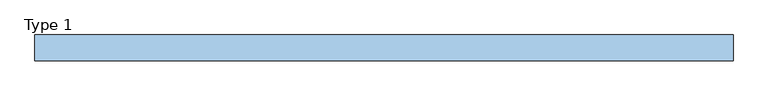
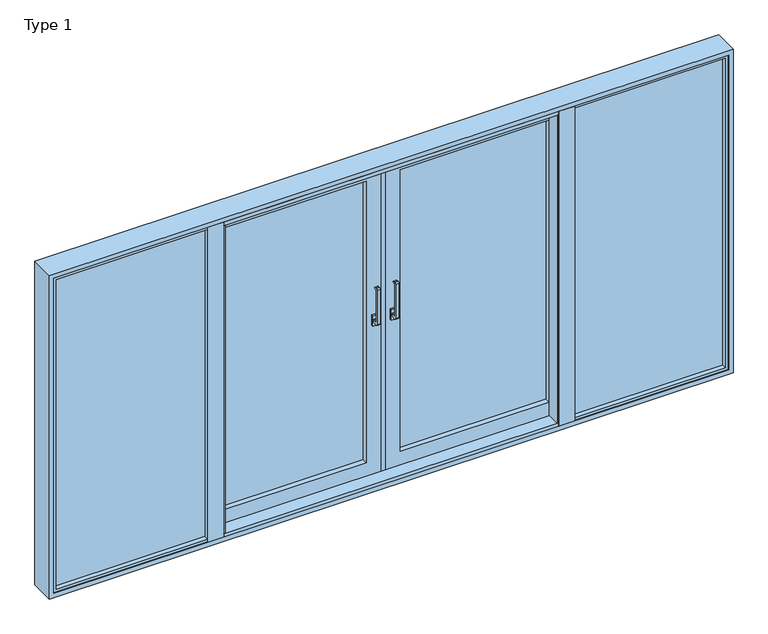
"""IFC4 building model written with IfcOpenShell, lengths in millimetres: window geometry, ETEM_ES70_Quadruple_Lift_Sliding_HT : Type 1."""

from ifc_helpers import new_model, si_unit, point, frame, frame_2d, origin, place, context, project, spatial, polyline, circle_curve, trimmed, segment, composite_curve, outline, extrude, faceted_brep, source, transform, mapped, element, save


def type_1_bc6504ef(model_context):
    return source(origin(), model_context, "Body", "SolidModel", [
        extrude(outline(composite_curve([segment(polyline([(20.5992454, 1090.0), (-10.9744394, 1090.0)]), True, "CONTINUOUS"), segment(trimmed(circle_curve(frame_2d((-10.9744394, 1098.4263152)), 8.4263152), [point((-10.9744394, 1090.0))], [point((-19.4007546, 1098.4263152))], False, "CARTESIAN"), True, "CONTINUOUS"), segment(polyline([(-19.4007546, 1098.4263152), (-19.4007546, 1331.5736848)]), True, "CONTINUOUS"), segment(trimmed(circle_curve(frame_2d((-10.9744394, 1331.5736848)), 8.4263152), [point((-19.4007546, 1331.5736848))], [point((-10.9744394, 1340.0))], False, "CARTESIAN"), True, "CONTINUOUS"), segment(polyline([(-10.9744394, 1340.0), (0.5992454, 1340.0)]), True, "CONTINUOUS"), segment(trimmed(circle_curve(frame_2d((0.5992454, 1335.0)), 5.0), [point((0.5992454, 1340.0))], [point((0.5992454, 1330.0))], False, "CARTESIAN"), True, "CONTINUOUS"), segment(polyline([(0.5992454, 1330.0), (-5.8652207, 1330.0)]), True, "CONTINUOUS"), segment(trimmed(circle_curve(frame_2d((-5.8652207, 1326.4644661)), 3.5355339), [point((-5.8652207, 1330.0))], [point((-9.4007546, 1326.4644661))], True, "CARTESIAN"), True, "CONTINUOUS"), segment(polyline([(-9.4007546, 1326.4644661), (-9.4007546, 1113.5355339)]), True, "CONTINUOUS"), segment(trimmed(circle_curve(frame_2d((-5.8652207, 1113.5355339)), 3.5355339), [point((-9.4007546, 1113.5355339))], [point((-5.8652207, 1110.0))], True, "CARTESIAN"), True, "CONTINUOUS"), segment(polyline([(-5.8652207, 1110.0), (20.5992454, 1110.0), (20.5992454, 1090.0)]), True, "CONTINUOUS")], self_intersect=False)), frame((-69.4936823, 0.0, 0.0), z_axis=(1.0, 0.0, 0.0), x_axis=(0.0, 1.0, 0.0)), (0.0, 0.0, 1.0), 20.0),
        extrude(outline(polyline([(-74.4936823, 20.5992454), (-74.4936823, 33.5992454), (-44.4936823, 33.5992454), (-44.4936823, 20.5992454), (-74.4936823, 20.5992454)])), frame((0.0, 0.0, 1065.0), z_axis=(0.0, 0.0, 1.0), x_axis=(1.0, 0.0, 0.0)), (0.0, 0.0, 1.0), 70.0),
        extrude(outline(composite_curve([segment(polyline([(20.5992454, 1090.0), (-10.9744394, 1090.0)]), True, "CONTINUOUS"), segment(trimmed(circle_curve(frame_2d((-10.9744394, 1098.4263152)), 8.4263152), [point((-10.9744394, 1090.0))], [point((-19.4007546, 1098.4263152))], False, "CARTESIAN"), True, "CONTINUOUS"), segment(polyline([(-19.4007546, 1098.4263152), (-19.4007546, 1331.5736848)]), True, "CONTINUOUS"), segment(trimmed(circle_curve(frame_2d((-10.9744394, 1331.5736848)), 8.4263152), [point((-19.4007546, 1331.5736848))], [point((-10.9744394, 1340.0))], False, "CARTESIAN"), True, "CONTINUOUS"), segment(polyline([(-10.9744394, 1340.0), (0.5992454, 1340.0)]), True, "CONTINUOUS"), segment(trimmed(circle_curve(frame_2d((0.5992454, 1335.0)), 5.0), [point((0.5992454, 1340.0))], [point((0.5992454, 1330.0))], False, "CARTESIAN"), True, "CONTINUOUS"), segment(polyline([(0.5992454, 1330.0), (-5.8652207, 1330.0)]), True, "CONTINUOUS"), segment(trimmed(circle_curve(frame_2d((-5.8652207, 1326.4644661)), 3.5355339), [point((-5.8652207, 1330.0))], [point((-9.4007546, 1326.4644661))], True, "CARTESIAN"), True, "CONTINUOUS"), segment(polyline([(-9.4007546, 1326.4644661), (-9.4007546, 1113.5355339)]), True, "CONTINUOUS"), segment(trimmed(circle_curve(frame_2d((-5.8652207, 1113.5355339)), 3.5355339), [point((-9.4007546, 1113.5355339))], [point((-5.8652207, 1110.0))], True, "CARTESIAN"), True, "CONTINUOUS"), segment(polyline([(-5.8652207, 1110.0), (20.5992454, 1110.0), (20.5992454, 1090.0)]), True, "CONTINUOUS")], self_intersect=False)), frame((49.4931787, 0.0, 0.0), z_axis=(1.0, 0.0, 0.0), x_axis=(0.0, 1.0, 0.0)), (0.0, 0.0, 1.0), 20.0),
        extrude(outline(polyline([(74.4931787, 20.5992454), (44.4931787, 20.5992454), (44.4931787, 33.5992454), (74.4931787, 33.5992454), (74.4931787, 20.5992454)])), frame((0.0, 0.0, 1065.0), z_axis=(0.0, 0.0, 1.0), x_axis=(1.0, 0.0, 0.0)), (0.0, 0.0, 1.0), 70.0),
        faceted_brep([(2200.0, -56.4, 2200.0), (2200.0, -56.4, 0.0), (2200.0, 105.0, 0.0), (2200.0, 105.0, 2200.0), (-2200.0, -56.4, 2200.0), (-2200.0, -56.4, 0.0), (2171.3, -56.4, 28.7), (-2171.3, -56.4, 28.7), (-2171.3, -56.4, 2171.3), (2171.3, -56.4, 2171.3), (-2200.0, 105.0, 0.0), (-2200.0, 105.0, 2200.0), (2183.5, 105.0, 2183.5), (-2183.5, 105.0, 2183.5), (-2183.5, 105.0, 16.5), (2183.5, 105.0, 16.5), (2183.5, 73.1, 2183.5), (2183.5, 73.1, 16.5), (-2183.5, 73.1, 16.5), (-2183.5, 73.1, 2183.5), (2160.0, 73.1, 2160.0), (-2160.0, 73.1, 2160.0), (-2160.0, 73.1, 40.0), (2160.0, 73.1, 40.0), (2160.0, 87.1, 2160.0), (2160.0, 87.1, 40.0), (-2160.0, 87.1, 40.0), (-2160.0, 87.1, 2160.0), (2151.8, 87.1, 2151.8), (-2151.8, 87.1, 2151.8), (-2151.8, 87.1, 48.2), (2151.8, 87.1, 48.2), (2151.8, 64.1, 2151.8), (2151.8, 64.1, 48.2), (-2151.8, 64.1, 48.2), (2183.5, 64.1, 2183.5), (-2183.5, 64.1, 2183.5), (-2183.5, 64.1, 16.5), (2183.5, 64.1, 16.5), (-2151.8, 64.1, 2151.8), (2183.5, 13.6, 2183.5), (2183.5, 13.6, 16.5), (-2183.5, 13.6, 16.5), (-2183.5, 13.6, 2183.5), (2152.0, 13.6, 2152.0), (-2152.0, 13.6, 2152.0), (-2152.0, 13.6, 48.0), (2152.0, 13.6, 48.0), (2171.3, -51.4, 2171.3), (2171.3, -51.4, 28.7), (-2171.3, -51.4, 2171.3), (-2171.3, -51.4, 28.7), (2152.0, -51.4, 48.0), (-2152.0, -51.4, 48.0), (-2152.0, -51.4, 2152.0), (2152.0, -51.4, 2152.0)], [[[0, 1, 2, 3]], [[0, 4, 5, 1], [6, 7, 8, 9]], [[2, 1, 5, 10]], [[2, 10, 11, 3], [12, 13, 14, 15]], [[16, 12, 15, 17]], [[17, 15, 14, 18]], [[17, 18, 19, 16], [20, 21, 22, 23]], [[24, 20, 23, 25]], [[25, 23, 22, 26]], [[25, 26, 27, 24], [28, 29, 30, 31]], [[32, 28, 31, 33]], [[33, 31, 30, 34]], [[35, 36, 37, 38], [33, 34, 39, 32]], [[40, 35, 38, 41]], [[41, 38, 37, 42]], [[41, 42, 43, 40], [44, 45, 46, 47]], [[9, 48, 49, 6]], [[48, 50, 51, 49], [52, 53, 54, 55]], [[6, 49, 51, 7]], [[10, 5, 4, 11]], [[18, 14, 13, 19]], [[26, 22, 21, 27]], [[34, 30, 29, 39]], [[42, 37, 36, 43]], [[7, 51, 50, 8]], [[53, 46, 45, 54]], [[52, 47, 46, 53]], [[55, 44, 47, 52]], [[11, 4, 0, 3]], [[19, 13, 12, 16]], [[27, 21, 20, 24]], [[39, 29, 28, 32]], [[43, 36, 35, 40]], [[8, 50, 48, 9]], [[54, 45, 44, 55]]]),
        faceted_brep([(1170.05, 45.9992454, 2160.9811707), (1170.05, 33.5992454, 2160.9811707), (1170.05, 33.5992454, 38.8188293), (1170.05, 45.9992454, 38.8188293), (7.0252518, 33.5992454, 2160.9811707), (7.0252518, 33.5992454, 38.8188293), (1067.05, 33.5992454, 141.8188293), (110.0252518, 33.5992454, 141.8188293), (110.0252518, 33.5992454, 2057.9811707), (1067.05, 33.5992454, 2057.9811707), (7.0252518, 45.9992454, 38.8188293), (7.0252518, 45.9992454, 2160.9811707), (1138.95, 45.9992454, 2129.8811707), (38.1252518, 45.9992454, 2129.8811707), (38.1252518, 45.9992454, 69.9188293), (1138.95, 45.9992454, 69.9188293), (1138.95, 91.1992454, 2129.8811707), (1138.95, 91.1992454, 69.9188293), (38.1252518, 91.1992454, 69.9188293), (1170.05, 91.1992454, 2160.9811707), (7.0252518, 91.1992454, 2160.9811707), (7.0252518, 91.1992454, 38.8188293), (1170.05, 91.1992454, 38.8188293), (38.1252518, 91.1992454, 2129.8811707), (1170.05, 103.5992454, 2160.9811707), (1170.05, 103.5992454, 38.8188293), (7.0252518, 103.5992454, 38.8188293), (7.0252518, 103.5992454, 2160.9811707), (1067.05, 103.5992454, 2057.9811707), (110.0252518, 103.5992454, 2057.9811707), (110.0252518, 103.5992454, 141.8188293), (1067.05, 103.5992454, 141.8188293)], [[[0, 1, 2, 3]], [[1, 4, 5, 2], [6, 7, 8, 9]], [[3, 2, 5, 10]], [[3, 10, 11, 0], [12, 13, 14, 15]], [[16, 12, 15, 17]], [[17, 15, 14, 18]], [[19, 20, 21, 22], [17, 18, 23, 16]], [[24, 19, 22, 25]], [[25, 22, 21, 26]], [[25, 26, 27, 24], [28, 29, 30, 31]], [[9, 28, 31, 6]], [[6, 31, 30, 7]], [[10, 5, 4, 11]], [[18, 14, 13, 23]], [[26, 21, 20, 27]], [[7, 30, 29, 8]], [[11, 4, 1, 0]], [[23, 13, 12, 16]], [[27, 20, 19, 24]], [[8, 29, 28, 9]]]),
        extrude(outline(polyline([(1179.95, 21.7992454), (1170.05, 21.7992454), (1170.05, 103.5992454), (1179.95, 103.5992454), (1179.95, 21.7992454)])), frame((0.0, 0.0, 38.8188293), z_axis=(0.0, 0.0, 1.0), x_axis=(1.0, 0.0, 0.0)), (0.0, 0.0, 1.0), 2122.1623414),
        extrude(outline(polyline([(1067.05, 29.6), (1076.95, 29.6), (1076.95, -56.4), (1067.05, -56.4), (1067.05, 29.6)])), frame((0.0, 0.0, 52.0), z_axis=(0.0, 0.0, 1.0), x_axis=(1.0, 0.0, 0.0)), (0.0, 0.0, 1.0), 2096.0),
        extrude(outline(polyline([(109.9252518, 95.6015137), (1067.05, 95.6015137), (1067.05, 89.6015137), (109.9252518, 89.6015137), (109.9252518, 95.6015137)])), frame((0.0, 0.0, 141.8188293), z_axis=(0.0, 0.0, 1.0), x_axis=(1.0, 0.0, 0.0)), (0.0, 0.0, 1.0), 1916.1623414),
        extrude(outline(polyline([(1179.95, 5.6000045), (2152.0, 5.6000045), (2152.0, -0.3999955), (1179.95, -0.3999955), (1179.95, 5.6000045)])), frame((0.0, 0.0, 48.0), z_axis=(0.0, 0.0, 1.0), x_axis=(1.0, 0.0, 0.0)), (0.0, 0.0, 1.0), 2104.0),
        extrude(outline(polyline([(1076.95, -56.4), (1076.95, 13.6), (1179.95, 13.6), (1179.95, -56.4), (1076.95, -56.4)])), frame((0.0, 0.0, 28.7), z_axis=(0.0, 0.0, 1.0), x_axis=(1.0, 0.0, 0.0)), (0.0, 0.0, 1.0), 2142.6),
        extrude(outline(polyline([(109.9252518, 73.6015137), (1067.05, 73.6015137), (1067.05, 67.6015137), (109.9252518, 67.6015137), (109.9252518, 73.6015137)])), frame((0.0, 0.0, 141.8188293), z_axis=(0.0, 0.0, 1.0), x_axis=(1.0, 0.0, 0.0)), (0.0, 0.0, 1.0), 1916.1623414),
        extrude(outline(polyline([(1179.95, -16.3999955), (2152.0, -16.3999955), (2152.0, -22.3999955), (1179.95, -22.3999955), (1179.95, -16.3999955)])), frame((0.0, 0.0, 48.0), z_axis=(0.0, 0.0, 1.0), x_axis=(1.0, 0.0, 0.0)), (0.0, 0.0, 1.0), 2104.0),
        faceted_brep([(-7.0252518, 45.9992454, 2160.9811707), (-7.0252518, 33.5992454, 2160.9811707), (-7.0252518, 33.5992454, 39.0188293), (-7.0252518, 45.9992454, 39.0188293), (-1170.05, 33.5992454, 2160.9811707), (-1170.05, 33.5992454, 39.0188293), (-110.0252518, 33.5992454, 142.0188293), (-1067.05, 33.5992454, 142.0188293), (-1067.05, 33.5992454, 2057.9811707), (-110.0252518, 33.5992454, 2057.9811707), (-1170.05, 45.9992454, 39.0188293), (-1170.05, 45.9992454, 2160.9811707), (-38.1252518, 45.9992454, 2129.8811707), (-1138.95, 45.9992454, 2129.8811707), (-1138.95, 45.9992454, 70.1188293), (-38.1252518, 45.9992454, 70.1188293), (-38.1252518, 91.1992454, 2129.8811707), (-38.1252518, 91.1992454, 70.1188293), (-1138.95, 91.1992454, 70.1188293), (-7.0252518, 91.1992454, 2160.9811707), (-1170.05, 91.1992454, 2160.9811707), (-1170.05, 91.1992454, 39.0188293), (-7.0252518, 91.1992454, 39.0188293), (-1138.95, 91.1992454, 2129.8811707), (-7.0252518, 103.5992454, 2160.9811707), (-7.0252518, 103.5992454, 39.0188293), (-1170.05, 103.5992454, 39.0188293), (-1170.05, 103.5992454, 2160.9811707), (-110.0252518, 103.5992454, 2057.9811707), (-1067.05, 103.5992454, 2057.9811707), (-1067.05, 103.5992454, 142.0188293), (-110.0252518, 103.5992454, 142.0188293)], [[[0, 1, 2, 3]], [[1, 4, 5, 2], [6, 7, 8, 9]], [[3, 2, 5, 10]], [[3, 10, 11, 0], [12, 13, 14, 15]], [[16, 12, 15, 17]], [[17, 15, 14, 18]], [[19, 20, 21, 22], [17, 18, 23, 16]], [[24, 19, 22, 25]], [[25, 22, 21, 26]], [[25, 26, 27, 24], [28, 29, 30, 31]], [[9, 28, 31, 6]], [[6, 31, 30, 7]], [[10, 5, 4, 11]], [[18, 14, 13, 23]], [[26, 21, 20, 27]], [[7, 30, 29, 8]], [[11, 4, 1, 0]], [[23, 13, 12, 16]], [[27, 20, 19, 24]], [[8, 29, 28, 9]]]),
        extrude(outline(polyline([(-1067.05, 95.6015137), (-109.9252518, 95.6015137), (-109.9252518, 89.6015137), (-1067.05, 89.6015137), (-1067.05, 95.6015137)])), frame((0.0, 0.0, 142.0188293), z_axis=(0.0, 0.0, 1.0), x_axis=(1.0, 0.0, 0.0)), (0.0, 0.0, 1.0), 1915.9623414),
        extrude(outline(polyline([(-1067.05, 73.6015137), (-109.9252518, 73.6015137), (-109.9252518, 67.6015137), (-1067.05, 67.6015137), (-1067.05, 73.6015137)])), frame((0.0, 0.0, 142.0188293), z_axis=(0.0, 0.0, 1.0), x_axis=(1.0, 0.0, 0.0)), (0.0, 0.0, 1.0), 1915.9623414),
        extrude(outline(polyline([(-1076.95, -56.4), (-1179.95, -56.4), (-1179.95, 13.6), (-1076.95, 13.6), (-1076.95, -56.4)])), frame((0.0, 0.0, 28.7), z_axis=(0.0, 0.0, 1.0), x_axis=(1.0, 0.0, 0.0)), (0.0, 0.0, 1.0), 2142.6),
        extrude(outline(polyline([(-1067.05, 29.6), (-1067.05, -56.4), (-1076.95, -56.4), (-1076.95, 29.6), (-1067.05, 29.6)])), frame((0.0, 0.0, 52.0), z_axis=(0.0, 0.0, 1.0), x_axis=(1.0, 0.0, 0.0)), (0.0, 0.0, 1.0), 2096.0),
        extrude(outline(polyline([(-1179.95, 21.7992454), (-1179.95, 103.5992454), (-1170.05, 103.5992454), (-1170.05, 21.7992454), (-1179.95, 21.7992454)])), frame((0.0, 0.0, 39.0188293), z_axis=(0.0, 0.0, 1.0), x_axis=(1.0, 0.0, 0.0)), (0.0, 0.0, 1.0), 2121.9623414),
        extrude(outline(polyline([(-2152.0, 5.6000045), (-1179.95, 5.6000045), (-1179.95, -0.3999955), (-2152.0, -0.3999955), (-2152.0, 5.6000045)])), frame((0.0, 0.0, 48.0), z_axis=(0.0, 0.0, 1.0), x_axis=(1.0, 0.0, 0.0)), (0.0, 0.0, 1.0), 2104.0),
        extrude(outline(polyline([(-2152.0, -16.3999955), (-1179.95, -16.3999955), (-1179.95, -22.3999955), (-2152.0, -22.3999955), (-2152.0, -16.3999955)])), frame((0.0, 0.0, 48.0), z_axis=(0.0, 0.0, 1.0), x_axis=(1.0, 0.0, 0.0)), (0.0, 0.0, 1.0), 2104.0),
        extrude(outline(polyline([(7.0252518, 50.0984907), (7.0252518, 33.5992454), (12.3472419, 33.5992454), (12.3472419, 31.8014769), (-12.6492101, 31.8014769), (-12.6492101, 33.5992454), (-7.0252518, 33.5992454), (-7.0252518, 103.5992454), (-12.6492101, 103.5992454), (-12.6492101, 105.3985231), (12.3472419, 105.3985231), (12.3472419, 103.5992454), (7.0252518, 103.5992454), (7.0252518, 87.1), (16.0497482, 87.1), (16.0497482, 50.0984907), (7.0252518, 50.0984907)])), frame((0.0, 0.0, 39.0188293), z_axis=(0.0, 0.0, 1.0), x_axis=(1.0, 0.0, 0.0)), (0.0, 0.0, 1.0), 2121.9623414),
        extrude(outline(polyline([(13.6, 48.0), (-51.4, 48.0), (-51.4, 28.7), (-56.4, 28.7), (-56.4, 52.0), (29.6, 52.0), (29.6, 41.879881), (13.6, 41.879881), (13.6, 48.0)])), frame((-1076.95, 0.0, 0.0), z_axis=(1.0, 0.0, 0.0), x_axis=(0.0, 1.0, 0.0)), (0.0, 0.0, 1.0), 2153.9),
        extrude(outline(polyline([(13.6, 2152.0), (13.6, 2158.120119), (29.6, 2158.120119), (29.6, 2148.0), (-56.4, 2148.0), (-56.4, 2171.3), (-51.4, 2171.3), (-51.4, 2152.0), (13.6, 2152.0)])), frame((-1076.95, 0.0, 0.0), z_axis=(1.0, 0.0, 0.0), x_axis=(0.0, 1.0, 0.0)), (0.0, 0.0, 1.0), 2153.9),
    ])


if __name__ == "__main__":
    model = new_model("IFC4")
    model_context = context("Model", 3, world=origin())
    ifc_project = project(units=[si_unit("LENGTHUNIT", "METRE", prefix="MILLI")], contexts=[model_context])
    site = spatial("IfcSite", under=ifc_project)
    building = spatial("IfcBuilding", under=site)
    placement = place(None, origin())
    type_1_shape = type_1_bc6504ef(model_context)
    element("IfcWindow", 1, ObjectType="ETEM_ES70_Quadruple_Lift_Sliding_HT : Type 1", at=placement, inside=building, context=model_context, shape_type="MappedRepresentation", body=[
        mapped(type_1_shape, transform((0.0, 0.0, 0.0), x_axis=(1.0, 0.0, 0.0), y_axis=(0.0, 1.0, 0.0), z_axis=(0.0, 0.0, 1.0))),
    ])
    save(model, "model.ifc")
